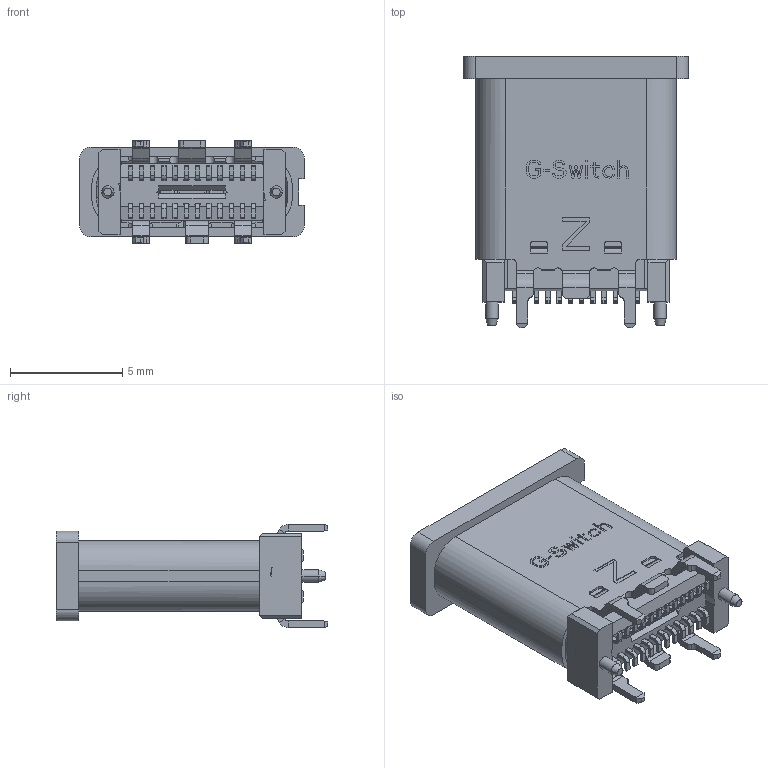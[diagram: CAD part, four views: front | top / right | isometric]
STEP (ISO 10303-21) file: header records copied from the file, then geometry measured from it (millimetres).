
FILE_DESCRIPTION((''),'2;1');
FILE_NAME('GT-USB-7019C_ASM','2023-05-05T',('WYH'),(''),'PRO/ENGINEER BY PARAMETRIC TECHNOLOGY CORPORATION, 2013040','PRO/ENGINEER BY PARAMETRIC TECHNOLOGY CORPORATION, 2013040','');
FILE_SCHEMA(('CONFIG_CONTROL_DESIGN'));
Length unit declared in the file: millimetre
Products named in the file (4): SHELL_H10_F_38_2_AF0; PRT0003; ASM0002_AF0_ASM; GT-USB-7019C_ASM
Assembly tree (3 placements, depth 3):
  GT-USB-7019C_ASM
    ASM0002_AF0_ASM
      SHELL_H10_F_38_2_AF0
      PRT0003
Bounding box: 10 x 12.1 x 4.6 mm (x, y, z)
Volume: 219.6 mm3; surface area: 862.3 mm2
Topology: 2 solids, 60 shells, 2117 faces, 5732 edges, 3741 vertices
Faces by surface type: plane 1721, cylinder 311, cone 55, extrusion 16, bspline 14
Entity records: 66508 total; most frequent: CARTESIAN_POINT 13359, ORIENTED_EDGE 11224, DIRECTION 10335, EDGE_CURVE 5732, VECTOR 4829, LINE 4813, VERTEX_POINT 3741, AXIS2_PLACEMENT_3D 2753
